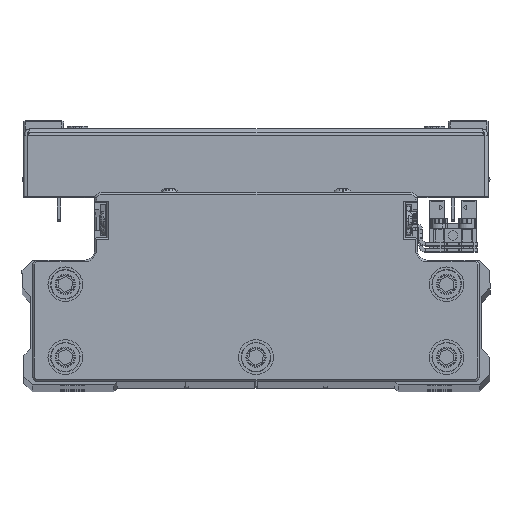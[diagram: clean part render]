
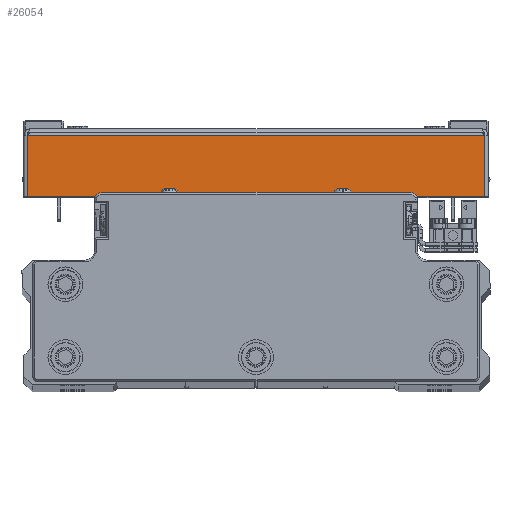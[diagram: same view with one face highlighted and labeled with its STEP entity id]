
A CAD part, top view. The second image highlights one B-rep face of the part: STEP entity #26054.
In plain terms, the highlighted planar face has unit normal (0, 0, 1) as drawn and (1, 0, 0) by its records, which use the part's own axes.
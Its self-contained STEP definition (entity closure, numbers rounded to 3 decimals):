
#1034 = CARTESIAN_POINT ( 'NONE',  ( 100., 18.5, 65.929 ) ) ;
#1106 = LINE ( 'NONE', #15012, #28365 ) ;
#1270 = FACE_OUTER_BOUND ( 'NONE', #44566, .T. ) ;
#1813 = VERTEX_POINT ( 'NONE', #1034 ) ;
#3411 = LINE ( 'NONE', #17309, #15352 ) ;
#5070 = LINE ( 'NONE', #18996, #9329 ) ;
#6613 = CARTESIAN_POINT ( 'NONE',  ( 100., 0., -65.929 ) ) ;
#8468 = CARTESIAN_POINT ( 'NONE',  ( 100., 1., 65.929 ) ) ;
#8714 = EDGE_CURVE ( 'NONE', #33578, #1813, #1106, .T. ) ;
#9329 = VECTOR ( 'NONE', #32923, 1000. ) ;
#11190 = CARTESIAN_POINT ( 'NONE',  ( 100., 18.5, -65.929 ) ) ;
#11767 = DIRECTION ( 'NONE',  ( 0., -1., 0. ) ) ;
#12222 = ORIENTED_EDGE ( 'NONE', *, *, #40880, .T. ) ;
#15012 = CARTESIAN_POINT ( 'NONE',  ( 100., 0., 65.929 ) ) ;
#15174 = PLANE ( 'NONE',  #17691 ) ;
#15352 = VECTOR ( 'NONE', #31220, 1000. ) ;
#15977 = EDGE_CURVE ( 'NONE', #42001, #18453, #37873, .T. ) ;
#16762 = ORIENTED_EDGE ( 'NONE', *, *, #15977, .T. ) ;
#17309 = CARTESIAN_POINT ( 'NONE',  ( 100., 1., 67. ) ) ;
#17691 = AXIS2_PLACEMENT_3D ( 'NONE', #29084, #43034, #11767 ) ;
#18453 = VERTEX_POINT ( 'NONE', #11190 ) ;
#18996 = CARTESIAN_POINT ( 'NONE',  ( 100., 18.5, 0. ) ) ;
#20531 = DIRECTION ( 'NONE',  ( 0., 1., 0. ) ) ;
#23415 = ORIENTED_EDGE ( 'NONE', *, *, #8714, .F. ) ;
#26054 = ADVANCED_FACE ( 'NONE', ( #1270 ), #15174, .F. ) ;
#28365 = VECTOR ( 'NONE', #28914, 1000. ) ;
#28597 = CARTESIAN_POINT ( 'NONE',  ( 100., 1., -65.929 ) ) ;
#28914 = DIRECTION ( 'NONE',  ( 0., 1., 0. ) ) ;
#29084 = CARTESIAN_POINT ( 'NONE',  ( 100., 0., 0. ) ) ;
#31220 = DIRECTION ( 'NONE',  ( 0., 0., 1. ) ) ;
#32249 = VECTOR ( 'NONE', #20531, 1000. ) ;
#32923 = DIRECTION ( 'NONE',  ( 0., 0., 1. ) ) ;
#33578 = VERTEX_POINT ( 'NONE', #8468 ) ;
#37873 = LINE ( 'NONE', #6613, #32249 ) ;
#39672 = ORIENTED_EDGE ( 'NONE', *, *, #44164, .F. ) ;
#40880 = EDGE_CURVE ( 'NONE', #18453, #1813, #5070, .T. ) ;
#42001 = VERTEX_POINT ( 'NONE', #28597 ) ;
#43034 = DIRECTION ( 'NONE',  ( -1., 0., 0. ) ) ;
#44164 = EDGE_CURVE ( 'NONE', #42001, #33578, #3411, .T. ) ;
#44566 = EDGE_LOOP ( 'NONE', ( #39672, #16762, #12222, #23415 ) ) ;
